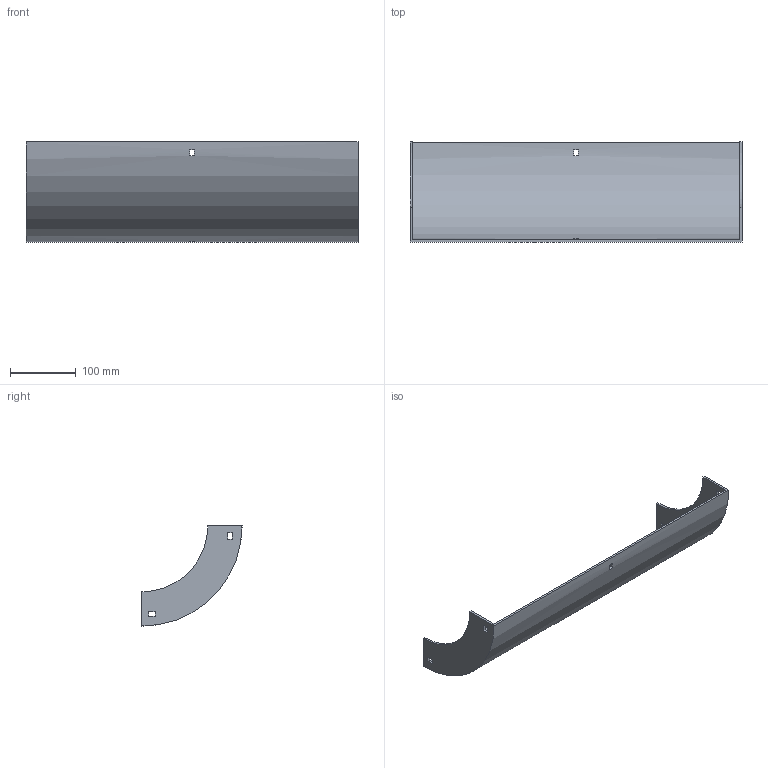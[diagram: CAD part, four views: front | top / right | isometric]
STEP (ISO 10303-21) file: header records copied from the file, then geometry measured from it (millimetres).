
FILE_DESCRIPTION (( 'STEP AP214' ), '1' );
FILE_NAME ('30B1B500.step', '2025-02-21T09:49:47', ( '' ), ( '' ), 'SwSTEP 2.0', 'SolidWorks 2023', '' );
FILE_SCHEMA (( 'AUTOMOTIVE_DESIGN' ));
Length unit declared in the file: millimetre
Products named in the file (1): 30B1B500
Bounding box: 504 x 152 x 152 mm (x, y, z)
Volume: 481194.1 mm3; surface area: 280988.2 mm2
Topology: 1 solids, 1 shells, 34 faces, 96 edges, 64 vertices
Faces by surface type: plane 30, cylinder 4
Entity records: 1143 total; most frequent: CARTESIAN_POINT 195, ORIENTED_EDGE 192, DIRECTION 182, EDGE_CURVE 96, VECTOR 80, LINE 80, VERTEX_POINT 64, AXIS2_PLACEMENT_3D 51
